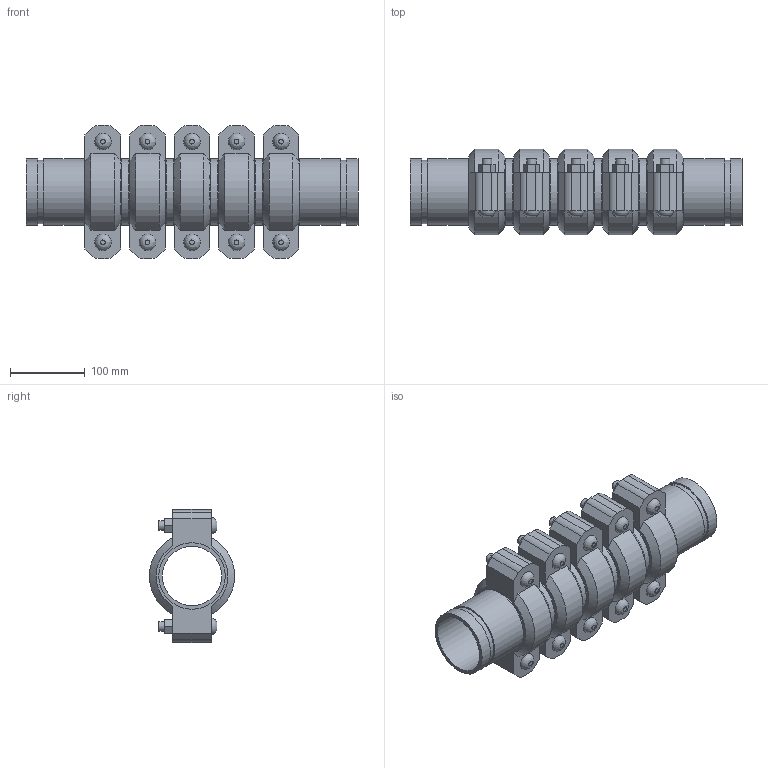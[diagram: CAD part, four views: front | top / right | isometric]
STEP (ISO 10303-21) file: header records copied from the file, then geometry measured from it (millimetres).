
FILE_DESCRIPTION(/* description */ ('VIC SS EXPANSION JOINT 5 COUPLINGS NEUTRAL STYLE 155P (OGS) (POTABLE WATER) ','CAx-IF Rec.Pracs.---Representation and Presentation of Product Manufacturing Information (PMI)---4.0---2014-10-13'),/* implementation_level */ '2;1');
FILE_NAME(/* name */ 'C:\Users\kkamble\AppData\Roaming\Autodesk\ApplicationPlugins\Victaulic.Temp\A327\Victaulic_SS_Expansion Joint_Neutral_5 Couplings_Style 155P (OGS)-Potable Water_5 Coup_Neut_3 (80).stp',/* time_stamp */ '2021-07-16T16:34:45+05:00',/* author */ ('kkamble'),/* organization */ ('Victaulic'),/* preprocessor_version */ 'ST-DEVELOPER v17.2',/* originating_system */ 'Autodesk Inventor 2019',/* authorisation */ '');
FILE_SCHEMA (('AP242_MANAGED_MODEL_BASED_3D_ENGINEERING_MIM_LF { 1 0 10303 442 1 1 4 }'));
Length unit declared in the file: inch
Products named in the file (4): 155P-03.0; Nipple-03.0; Nipple-03.0_1; 075-03.0
Assembly tree (11 placements, depth 2):
  155P-03.0
    Nipple-03.0  x2
    Nipple-03.0_1  x4
    075-03.0  x5
Bounding box: 443.74 x 113.88 x 177.8 mm (x, y, z)
Volume: 2160962.5 mm3; surface area: 560284.6 mm2
Topology: 11 solids, 21 shells, 357 faces, 845 edges, 594 vertices
Faces by surface type: plane 216, cylinder 111, cone 20, bspline 10
Full cylindrical faces by diameter (mm): 12.7 x20, 14.605 x10, 79.35 x6, 82.55 x5, 84.938 x12, 88.9 x28
Entity records: 2801 total; most frequent: CARTESIAN_POINT 495, DIRECTION 465, ORIENTED_EDGE 386, EDGE_CURVE 193, AXIS2_PLACEMENT_3D 186, VERTEX_POINT 138, EDGE_LOOP 107, LINE 93
